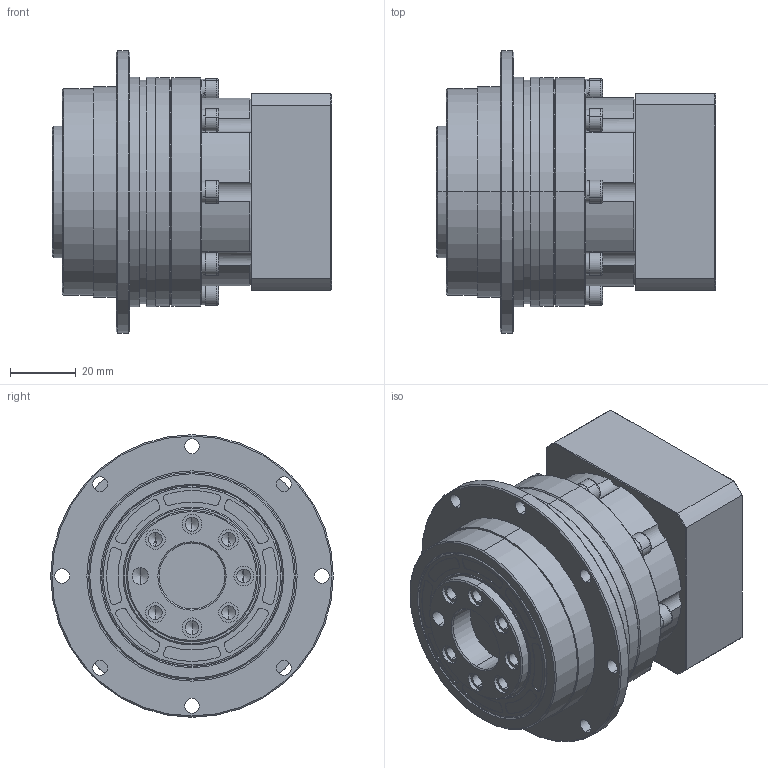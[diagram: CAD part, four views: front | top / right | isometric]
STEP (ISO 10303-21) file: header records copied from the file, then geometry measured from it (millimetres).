
FILE_DESCRIPTION (( 'STEP AP214' ), '1' );
FILE_NAME ('VRT-064-L1P1 14-50-70-M4.STEP', '2023-08-15T00:55:23', ( '微软用户' ), ( '微软中国' ), 'SwSTEP 2.0', 'SolidWorks 2018', '' );
FILE_SCHEMA (( 'AUTOMOTIVE_DESIGN' ));
Length unit declared in the file: millimetre
Products named in the file (9): 一级整体太阳轮夹套外形图 VRT-06414; VRT-064-L1P1 14-50-70-M4; hexagon socket head cap screws gb_GB_FASTENER_SCREWS_HSHCS M4X20-N; 萇儂楊擘 VRT-064-D50-M4-70F60H24.5; 一级齿圈 法兰盘VRT-064外形图; spring lock washers--normal type gb_GB_FASTENER_WASHER_SW 4; hexagon socket head cap screws gb_GB_FASTENER_SCREWS_HSHCS M5X16-N; hex socket set screws with flat point gb_GB_FASTENER_SCREWS_HSFP M10X10-N; 笢潔楊擘VRT-064俋倛芞
Assembly tree (34 placements, depth 2):
  VRT-064-L1P1 14-50-70-M4
    一级齿圈 法兰盘VRT-064外形图
    笢潔楊擘VRT-064俋倛芞
    萇儂楊擘 VRT-064-D50-M4-70F60H24.5
    一级整体太阳轮夹套外形图 VRT-06414
    hexagon socket head cap screws gb_GB_FASTENER_SCREWS_HSHCS M4X20-N  x14
    spring lock washers--normal type gb_GB_FASTENER_WASHER_SW 4  x14
    hexagon socket head cap screws gb_GB_FASTENER_SCREWS_HSHCS M5X16-N
    hex socket set screws with flat point gb_GB_FASTENER_SCREWS_HSFP M10X10-N
Bounding box: 85 x 86 x 86 mm (x, y, z)
Volume: 213904.8 mm3; surface area: 68526.9 mm2
Topology: 35 solids, 35 shells, 1059 faces, 2579 edges, 1605 vertices
Faces by surface type: cylinder 419, plane 407, cone 201, bspline 32
Entity records: 18905 total; most frequent: CARTESIAN_POINT 3516, DIRECTION 3426, ORIENTED_EDGE 2942, EDGE_CURVE 1471, AXIS2_PLACEMENT_3D 1394, VERTEX_POINT 942, CIRCLE 759, EDGE_LOOP 715
